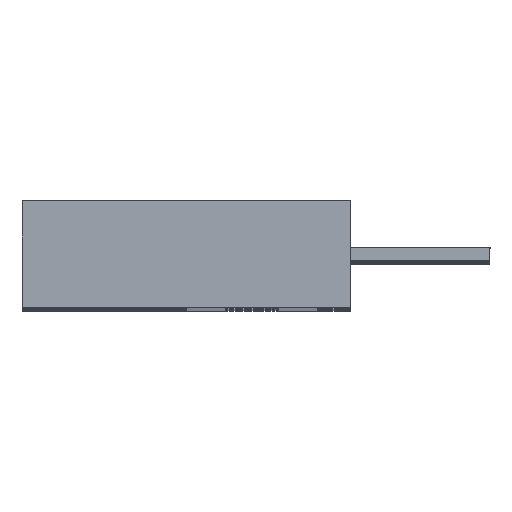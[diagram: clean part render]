
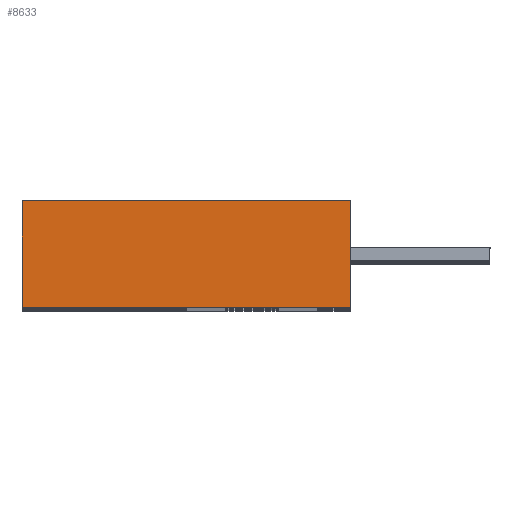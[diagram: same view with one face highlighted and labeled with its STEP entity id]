
A CAD part, top view. The second image highlights one B-rep face of the part: STEP entity #8633.
In plain terms, the highlighted planar face has unit normal (0, 0, 1).
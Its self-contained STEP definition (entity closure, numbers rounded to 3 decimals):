
#160 = CARTESIAN_POINT ( 'NONE',  ( 0., 6.5, 0. ) ) ;
#1289 = DIRECTION ( 'NONE',  ( 0., 0., 1. ) ) ;
#1402 = DIRECTION ( 'NONE',  ( 0., -1., 0. ) ) ;
#1517 = ORIENTED_EDGE ( 'NONE', *, *, #9970, .T. ) ;
#2271 = EDGE_CURVE ( 'NONE', #18342, #17442, #19385, .T. ) ;
#2363 = LINE ( 'NONE', #12746, #16878 ) ;
#2936 = FACE_OUTER_BOUND ( 'NONE', #11620, .T. ) ;
#3466 = ORIENTED_EDGE ( 'NONE', *, *, #16601, .F. ) ;
#5891 = LINE ( 'NONE', #9526, #7425 ) ;
#7425 = VECTOR ( 'NONE', #1402, 1000. ) ;
#8633 = ADVANCED_FACE ( 'NONE', ( #2936 ), #16169, .T. ) ;
#8807 = LINE ( 'NONE', #160, #14138 ) ;
#9526 = CARTESIAN_POINT ( 'NONE',  ( 0., 0., 0. ) ) ;
#9970 = EDGE_CURVE ( 'NONE', #13414, #18342, #2363, .T. ) ;
#10296 = CARTESIAN_POINT ( 'NONE',  ( 0., 6.5, 0. ) ) ;
#10609 = CARTESIAN_POINT ( 'NONE',  ( -20., 0., 0. ) ) ;
#11620 = EDGE_LOOP ( 'NONE', ( #1517, #19785, #3466, #11811 ) ) ;
#11811 = ORIENTED_EDGE ( 'NONE', *, *, #20298, .F. ) ;
#12746 = CARTESIAN_POINT ( 'NONE',  ( -20., 0., 0. ) ) ;
#12901 = DIRECTION ( 'NONE',  ( 1., 0., 0. ) ) ;
#13414 = VERTEX_POINT ( 'NONE', #14461 ) ;
#13617 = CARTESIAN_POINT ( 'NONE',  ( 0., 0., 0. ) ) ;
#13773 = VECTOR ( 'NONE', #19246, 1000. ) ;
#14138 = VECTOR ( 'NONE', #12901, 1000. ) ;
#14461 = CARTESIAN_POINT ( 'NONE',  ( -20., 6.5, 0. ) ) ;
#15936 = CARTESIAN_POINT ( 'NONE',  ( -20., 0., 0. ) ) ;
#16169 = PLANE ( 'NONE',  #16316 ) ;
#16316 = AXIS2_PLACEMENT_3D ( 'NONE', #19335, #1289, #19258 ) ;
#16601 = EDGE_CURVE ( 'NONE', #19384, #17442, #5891, .T. ) ;
#16878 = VECTOR ( 'NONE', #20821, 1000. ) ;
#17442 = VERTEX_POINT ( 'NONE', #13617 ) ;
#18342 = VERTEX_POINT ( 'NONE', #10609 ) ;
#19246 = DIRECTION ( 'NONE',  ( 1., 0., 0. ) ) ;
#19258 = DIRECTION ( 'NONE',  ( 1., 0., 0. ) ) ;
#19335 = CARTESIAN_POINT ( 'NONE',  ( -20., 0., 0. ) ) ;
#19384 = VERTEX_POINT ( 'NONE', #10296 ) ;
#19385 = LINE ( 'NONE', #15936, #13773 ) ;
#19785 = ORIENTED_EDGE ( 'NONE', *, *, #2271, .T. ) ;
#20298 = EDGE_CURVE ( 'NONE', #13414, #19384, #8807, .T. ) ;
#20821 = DIRECTION ( 'NONE',  ( 0., -1., 0. ) ) ;
